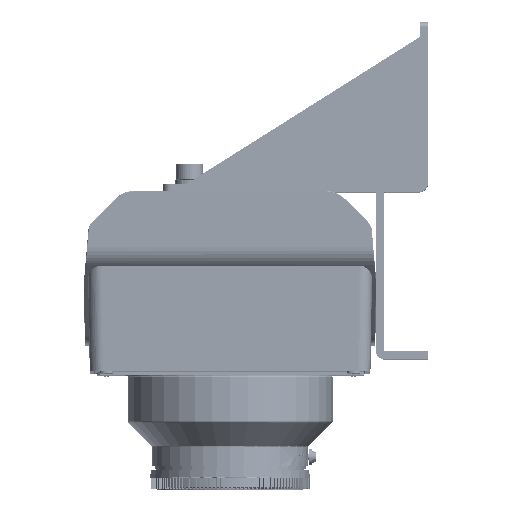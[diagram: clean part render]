
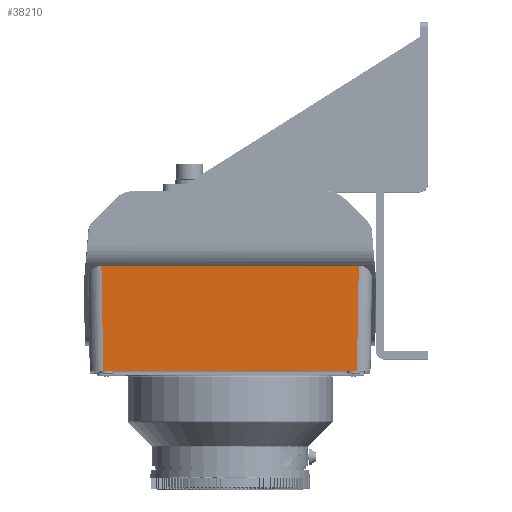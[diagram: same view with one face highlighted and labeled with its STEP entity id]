
A CAD part, top view. The second image highlights one B-rep face of the part: STEP entity #38210.
In plain terms, the highlighted planar face has unit normal (0, -0.018, 1).
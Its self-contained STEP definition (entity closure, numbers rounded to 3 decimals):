
#7177=DIRECTION('',(1.,0.,0.));
#7178=VECTOR('',#7177,94.002);
#7179=CARTESIAN_POINT('',(-47.001,-75.,300.));
#7180=LINE('',#7179,#7178);
#7285=DIRECTION('',(0.017,1.,0.017));
#7286=VECTOR('',#7285,39.119);
#7287=CARTESIAN_POINT('',(47.001,-75.,300.));
#7288=LINE('',#7287,#7286);
#7289=DIRECTION('',(-0.017,1.,0.017));
#7290=VECTOR('',#7289,39.119);
#7291=CARTESIAN_POINT('',(-47.001,-75.,300.));
#7292=LINE('',#7291,#7290);
#7316=DIRECTION('',(-1.,0.,0.));
#7317=VECTOR('',#7316,95.367);
#7318=CARTESIAN_POINT('',(47.683,-35.893,300.683));
#7319=LINE('',#7318,#7317);
#21111=CARTESIAN_POINT('',(-47.001,-75.,300.));
#21112=CARTESIAN_POINT('',(47.001,-75.,300.));
#21113=VERTEX_POINT('',#21111);
#21114=VERTEX_POINT('',#21112);
#21127=CARTESIAN_POINT('',(47.683,-35.893,
300.683));
#21128=CARTESIAN_POINT('',(-47.683,-35.893,
300.683));
#21129=VERTEX_POINT('',#21127);
#21130=VERTEX_POINT('',#21128);
#38196=CARTESIAN_POINT('',(-52.,-75.,300.));
#38197=DIRECTION('',(0.,-0.017,1.));
#38198=DIRECTION('',(1.,0.,0.));
#38199=AXIS2_PLACEMENT_3D('',#38196,#38197,#38198);
#38200=PLANE('',#38199);
#38202=ORIENTED_EDGE('',*,*,#38201,.F.);
#38204=ORIENTED_EDGE('',*,*,#38203,.F.);
#38205=ORIENTED_EDGE('',*,*,#38160,.F.);
#38207=ORIENTED_EDGE('',*,*,#38206,.T.);
#38208=EDGE_LOOP('',(#38202,#38204,#38205,#38207));
#38209=FACE_OUTER_BOUND('',#38208,.F.);
#38210=ADVANCED_FACE('',(#38209),#38200,.T.);
#38160=EDGE_CURVE('',#21113,#21114,#7180,.T.);
#38201=EDGE_CURVE('',#21129,#21130,#7319,.T.);
#38203=EDGE_CURVE('',#21114,#21129,#7288,.T.);
#38206=EDGE_CURVE('',#21113,#21130,#7292,.T.);
